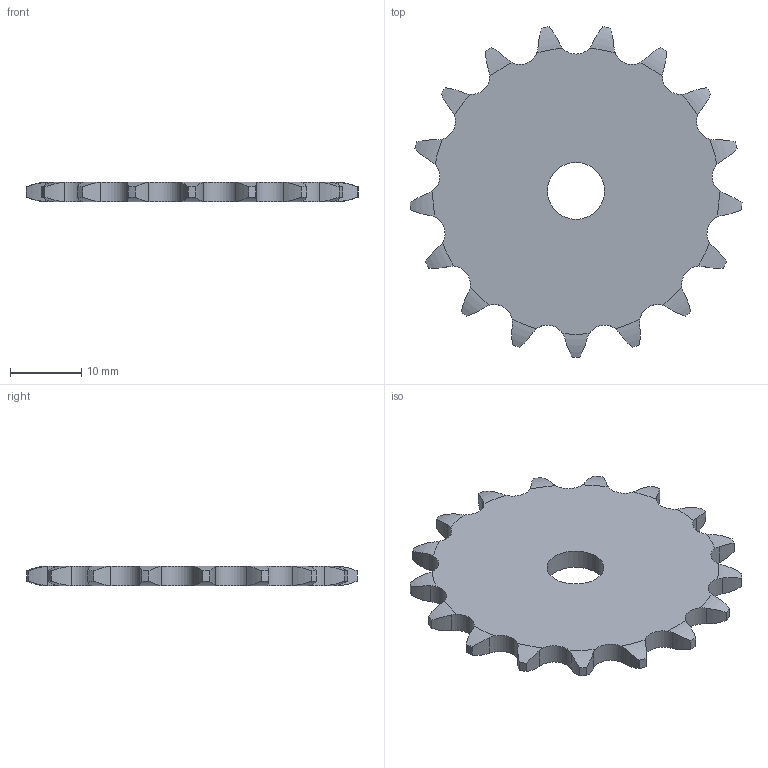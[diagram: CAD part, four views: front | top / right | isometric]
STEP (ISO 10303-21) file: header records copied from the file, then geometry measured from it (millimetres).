
FILE_DESCRIPTION((''),'2;1');
FILE_NAME('500-081-0017_PRT','2021-02-12T',('Brieden'),('Brieden'),'PRO/ENGINEER BY PARAMETRIC TECHNOLOGY CORPORATION, 2010160','PRO/ENGINEER BY PARAMETRIC TECHNOLOGY CORPORATION, 2010160','');
FILE_SCHEMA(('AUTOMOTIVE_DESIGN { 1 0 10303 214 1 1 1 1 }'));
Length unit declared in the file: millimetre
Products named in the file (1): 500-081-0017_PRT
Bounding box: 46.68 x 46.49 x 2.8 mm (x, y, z)
Volume: 3653.3 mm3; surface area: 3229.4 mm2
Topology: 1 solids, 1 shells, 106 faces, 312 edges, 208 vertices
Faces by surface type: cylinder 70, torus 34, plane 2
Entity records: 5118 total; most frequent: CARTESIAN_POINT 1447, ORIENTED_EDGE 624, DIRECTION 494, PRESENTATION_STYLE_ASSIGNMENT 313, STYLED_ITEM 313, CURVE_STYLE 312, EDGE_CURVE 312, AXIS2_PLACEMENT_3D 212
